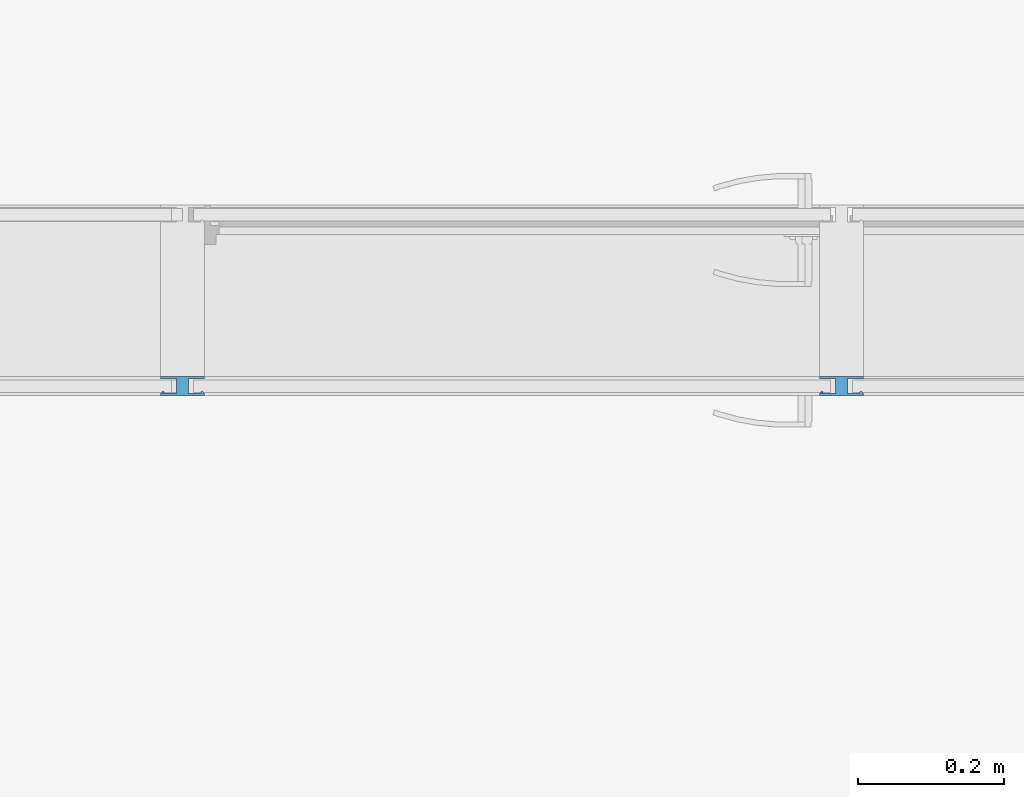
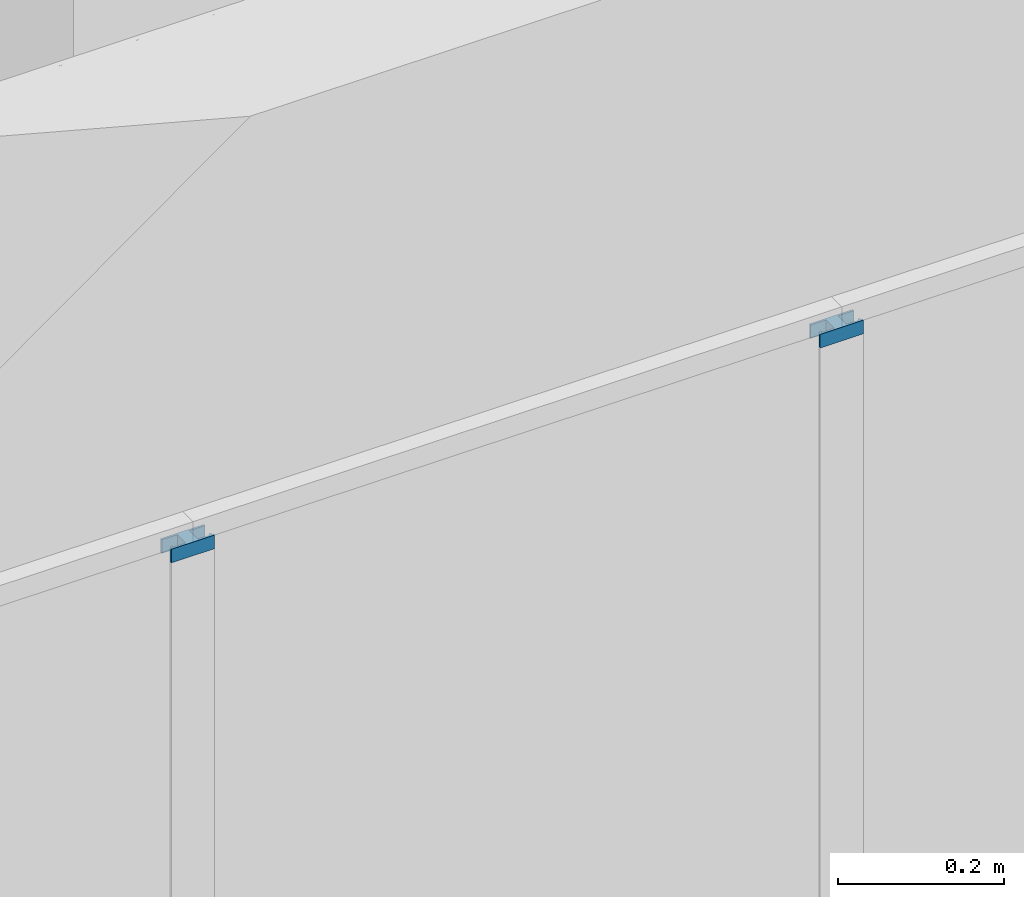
# One storey, part 48 of 246: 2 members, 1 element without a shape of its own.
"""IFC2X3 building model written with IfcOpenShell, lengths in millimetres."""

from ifc_helpers import new_model, entity, si_unit, converted_unit, derived_unit, money_unit, direction, frame, origin_with_axes, place, context, subcontext, project, spatial, faceted_brep, source, transform, mapped, material, material_list, type_object, element, aggregate, save


model = new_model("IFC2X3")

# Units and contexts
model_context = context("Model", 3, precision=0.01, world=origin_with_axes(), true_north=direction((0.0, 1.0)))
body_context = subcontext(model_context, "Body", "Model", "MODEL_VIEW")
ifc_project = project(units=[si_unit("LENGTHUNIT", "METRE", prefix="MILLI"), si_unit("AREAUNIT", "SQUARE_METRE"), si_unit("VOLUMEUNIT", "CUBIC_METRE"), converted_unit("PLANEANGLEUNIT", "DEGREE", entity("IfcPlaneAngleMeasure", 0.0174532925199), si_unit("PLANEANGLEUNIT", "RADIAN"), dimensions=[0, 0, 0, 0, 0, 0, 0]), si_unit("SOLIDANGLEUNIT", "STERADIAN"), money_unit("EUR"), converted_unit("TIMEUNIT", "Year", entity("IfcTimeMeasure", 31556926.0), si_unit("TIMEUNIT", "SECOND"), dimensions=[0, 0, 1, 0, 0, 0, 0]), si_unit("MASSUNIT", "GRAM", prefix="KILO"), si_unit("THERMODYNAMICTEMPERATUREUNIT", "DEGREE_CELSIUS"), si_unit("LUMINOUSINTENSITYUNIT", "LUMEN"), si_unit("ENERGYUNIT", "JOULE", prefix="MEGA"), derived_unit("THERMALCONDUCTANCEUNIT", [(si_unit("POWERUNIT", "WATT"), 1), (si_unit("LENGTHUNIT", "METRE"), -1), (si_unit("THERMODYNAMICTEMPERATUREUNIT", "KELVIN"), -1)]), derived_unit("SPECIFICHEATCAPACITYUNIT", [(si_unit("ENERGYUNIT", "JOULE"), 1), (si_unit("MASSUNIT", "GRAM", prefix="KILO"), -1), (si_unit("THERMODYNAMICTEMPERATUREUNIT", "KELVIN"), -1)]), derived_unit("MASSDENSITYUNIT", [(si_unit("MASSUNIT", "GRAM", prefix="KILO"), 1), (si_unit("VOLUMEUNIT", "CUBIC_METRE"), -1)])], contexts=[model_context])

# Site, building, storey
site_placement = place(None, origin_with_axes())
site = spatial("IfcSite", under=ifc_project, at=site_placement, Name="L.Koidula tn 11b", CompositionType="ELEMENT")
building_placement = place(site_placement, origin_with_axes())
building = spatial("IfcBuilding", under=site, at=building_placement, Name="Rakvere Riigigümnaasium", CompositionType="ELEMENT")
storey_placement = place(building_placement, origin_with_axes())
storey = spatial("IfcBuildingStorey", under=building, at=storey_placement, Name="1.korrus 0,00", CompositionType="ELEMENT", Elevation=0.0)

# Curtain wall, members
curtain_wall_type = type_object("IfcCurtainWallType", Name="Curtain Wall Type", PredefinedType="NOTDEFINED")
curtain_wall_placement = place(storey_placement, frame((46459.9999921, 61346.4546496, -4.47035262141e-05), z_axis=(0.0, 0.0, 1.0), x_axis=(1.0, 0.0, 0.0)))
curtain_wall = element("IfcCurtainWall", 1, at=curtain_wall_placement, inside=storey, type_object=curtain_wall_type, Name="SKLF-04")
ifc_material_1 = material(Name="Klaasvill")
ifc_material_2 = material(Name="Teras RAL7012")
ifc_material_list = material_list([ifc_material_1, ifc_material_2])
member_type = type_object("IfcMemberType", Name="Mullion Frame 60 x 20", PredefinedType="MULLION")
shared_shape = source(origin_with_axes(), body_context, "Body", "Brep", [
    faceted_brep([(2.00001916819, -16.999999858, 0.0), (8.35001923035, -16.999999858, 0.0), (8.35001923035, -16.999999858, 20.0000139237), (2.00001916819, -16.999999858, 20.0000139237), (2.00001916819, 3.01614473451, 0.0), (8.35001923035, 3.01614428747, 0.0), (8.35001923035, 3.01614428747, 20.0000139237), (2.00001916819, 3.01614473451, 20.0000139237)], [[[0, 1, 2, 3]], [[0, 4, 5, 1]], [[1, 5, 6, 2]], [[3, 2, 6, 7]], [[4, 0, 3, 7]], [[5, 4, 7, 6]]]),
    faceted_brep([(28.5126239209, 3.01614444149, 0.0), (24.7344548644, 2.03853257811, 0.0), (24.7344548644, 2.03853257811, 20.0000139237), (28.5126239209, 3.01614444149, 20.0000139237), (28.7655837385, 2.03853257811, 0.0), (28.4955493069, 1.03075035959, 0.0), (27.75780152, 0.293002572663, 0.0), (26.7500193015, 0.0229681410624, 0.0), (25.742237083, 0.293002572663, 0.0), (25.004489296, 1.03075035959, 0.0), (25.004489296, 1.03075035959, 20.0000139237), (25.742237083, 0.293002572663, 20.0000139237), (26.7500193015, 0.0229681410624, 20.0000139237), (27.75780152, 0.293002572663, 20.0000139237), (28.4955493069, 1.03075035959, 20.0000139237), (28.7655837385, 2.03853257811, 20.0000139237)], [[[0, 1, 2, 3]], [[0, 4, 5, 6, 7, 8, 9, 1]], [[1, 9, 10, 2]], [[3, 2, 10, 11, 12, 13, 14, 15]], [[4, 0, 3, 15]], [[5, 4, 15, 14]], [[6, 5, 14, 13]], [[7, 6, 13, 12]], [[8, 7, 12, 11]], [[9, 8, 11, 10]]]),
    faceted_brep([(-8.35001923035, -16.999999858, 0.0), (-2.00001916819, -16.999999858, 0.0), (-2.00001916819, -16.999999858, 20.0000139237), (-8.35001923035, -16.999999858, 20.0000139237), (-8.35001923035, 3.01614428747, 0.0), (-2.00001916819, 3.01614428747, 0.0), (-2.00001916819, 3.01614428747, 20.0000139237), (-8.35001923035, 3.01614428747, 20.0000139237)], [[[0, 1, 2, 3]], [[0, 4, 5, 1]], [[1, 5, 6, 2]], [[3, 2, 6, 7]], [[4, 0, 3, 7]], [[5, 4, 7, 6]]]),
    faceted_brep([(-28.5126239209, 3.01614444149, 0.0), (-28.4955493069, 1.03075035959, 0.0), (-28.4955493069, 1.03075035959, 20.0000139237), (-28.5126239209, 3.01614444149, 20.0000139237), (-24.987414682, 3.01614444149, 0.0), (-24.7344548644, 2.03853257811, 0.0), (-25.004489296, 1.03075035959, 0.0), (-25.742237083, 0.293002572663, 0.0), (-26.7500193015, 0.0229681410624, 0.0), (-27.75780152, 0.293002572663, 0.0), (-27.75780152, 0.293002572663, 20.0000139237), (-26.7500193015, 0.0229681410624, 20.0000139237), (-25.742237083, 0.293002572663, 20.0000139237), (-25.004489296, 1.03075035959, 20.0000139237), (-24.7344548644, 2.03853257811, 20.0000139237), (-24.987414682, 3.01614444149, 20.0000139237)], [[[0, 1, 2, 3]], [[0, 4, 5, 6, 7, 8, 9, 1]], [[1, 9, 10, 2]], [[3, 2, 10, 11, 12, 13, 14, 15]], [[4, 0, 3, 15]], [[5, 4, 15, 14]], [[6, 5, 14, 13]], [[7, 6, 13, 12]], [[8, 7, 12, 11]], [[9, 8, 11, 10]]]),
    faceted_brep([(0.0, 5.9999997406, 0.0), (0.0, -20.0, 0.0), (0.0, -20.0, 20.0000139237), (0.0, 5.9999997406, 20.0000139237), (30.0000193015, 5.9999997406, 0.0), (30.0000193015, 3.01614473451, 0.0), (28.5126239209, 3.01614444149, 0.0), (24.987414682, 3.01614444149, 0.0), (8.35001923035, 3.01614428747, 0.0), (2.00001916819, 3.01614473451, 0.0), (2.00001916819, -16.999999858, 0.0), (8.35001923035, -16.999999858, 0.0), (30.0000193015, -16.999999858, 0.0), (30.0000193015, -20.0, 0.0), (30.0000193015, -20.0, 20.0000139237), (30.0000193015, -16.999999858, 20.0000139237), (8.35001923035, -16.999999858, 20.0000139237), (2.00001916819, -16.999999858, 20.0000139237), (2.00001916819, 3.01614473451, 20.0000139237), (8.35001923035, 3.01614428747, 20.0000139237), (24.987414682, 3.01614444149, 20.0000139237), (28.5126239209, 3.01614444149, 20.0000139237), (30.0000193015, 3.01614473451, 20.0000139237), (30.0000193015, 5.9999997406, 20.0000139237)], [[[0, 1, 2, 3]], [[0, 4, 5, 6, 7, 8, 9, 10, 11, 12, 13, 1]], [[1, 13, 14, 2]], [[3, 2, 14, 15, 16, 17, 18, 19, 20, 21, 22, 23]], [[4, 0, 3, 23]], [[5, 4, 23, 22]], [[6, 5, 22, 21]], [[7, 6, 21, 20]], [[8, 7, 20, 19]], [[9, 8, 19, 18]], [[10, 9, 18, 17]], [[11, 10, 17, 16]], [[12, 11, 16, 15]], [[13, 12, 15, 14]]]),
    faceted_brep([(0.0, -20.0, 0.0), (0.0, 6.0, 0.0), (0.0, 6.0, 20.0000139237), (0.0, -20.0, 20.0000139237), (-30.0000193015, -20.0, 0.0), (-30.0000193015, -17.0, 0.0), (-8.35001923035, -16.999999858, 0.0), (-2.00001930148, -17.0, 0.0), (-2.00001930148, 3.01614444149, 0.0), (-8.35001923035, 3.01614428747, 0.0), (-24.987414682, 3.01614444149, 0.0), (-28.5126239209, 3.01614444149, 0.0), (-30.0000193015, 3.01614444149, 0.0), (-30.0000193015, 6.0, 0.0), (-30.0000193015, 6.0, 20.0000139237), (-30.0000193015, 3.01614444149, 20.0000139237), (-28.5126239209, 3.01614444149, 20.0000139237), (-24.987414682, 3.01614444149, 20.0000139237), (-8.35001923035, 3.01614428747, 20.0000139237), (-2.00001930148, 3.01614444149, 20.0000139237), (-2.00001930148, -17.0, 20.0000139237), (-8.35001923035, -16.999999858, 20.0000139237), (-30.0000193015, -17.0, 20.0000139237), (-30.0000193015, -20.0, 20.0000139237)], [[[0, 1, 2, 3]], [[0, 4, 5, 6, 7, 8, 9, 10, 11, 12, 13, 1]], [[1, 13, 14, 2]], [[3, 2, 14, 15, 16, 17, 18, 19, 20, 21, 22, 23]], [[4, 0, 3, 23]], [[5, 4, 23, 22]], [[6, 5, 22, 21]], [[7, 6, 21, 20]], [[8, 7, 20, 19]], [[9, 8, 19, 18]], [[10, 9, 18, 17]], [[11, 10, 17, 16]], [[12, 11, 16, 15]], [[13, 12, 15, 14]]]),
])
member_1_placement = place(curtain_wall_placement, frame((-360.00000095, 0.0, 5000.00001148), z_axis=(0.0, 0.0, 1.0), x_axis=(-1.0, 0.0, 0.0)))
member_1 = element("IfcMember", 2, at=member_1_placement, type_object=member_type, material=ifc_material_list, Name="P-SKLF-62-raam", ObjectType="MULLION", context=body_context, shape_type="MappedRepresentation", body=[
    mapped(shared_shape, transform((0.0, 0.0, 0.0))),
])
member_2_placement = place(curtain_wall_placement, frame((-1260.00000095, 0.0, 5000.00008673), z_axis=(0.0, 0.0, 1.0), x_axis=(-1.0, 0.0, 0.0)))
member_2 = element("IfcMember", 3, at=member_2_placement, type_object=member_type, material=ifc_material_list, Name="P-SKLF-61-raam", ObjectType="MULLION", context=body_context, shape_type="MappedRepresentation", body=[
    mapped(shared_shape, transform((0.0, 0.0, 0.0))),
])
aggregate(curtain_wall, [member_1, member_2])

save(model, "model.ifc")
